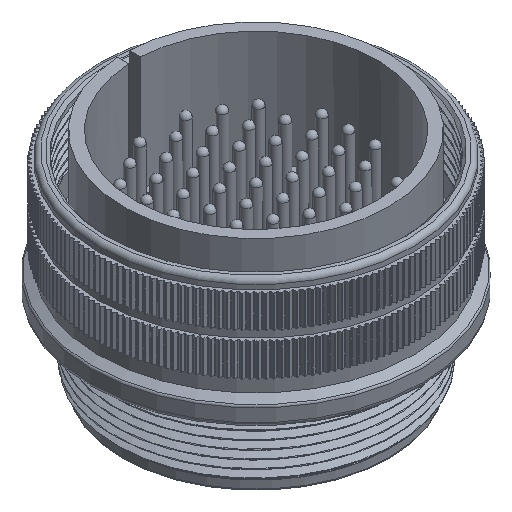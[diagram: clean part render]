
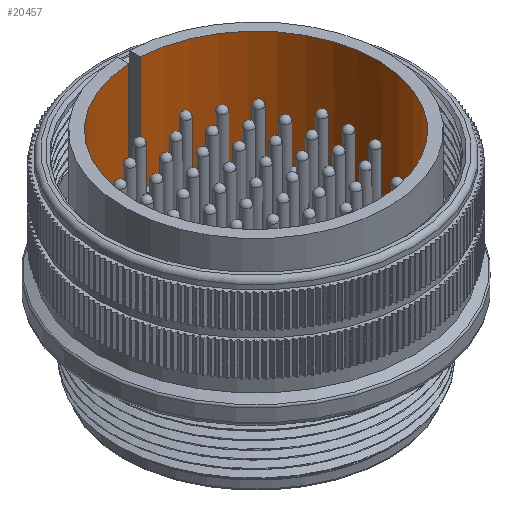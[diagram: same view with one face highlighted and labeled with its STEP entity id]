
A CAD part, isometric view. The second image highlights one B-rep face of the part: STEP entity #20457.
In plain terms, the highlighted cylindrical face has radius 20.575 mm (diameter 41.15 mm), a full revolution.
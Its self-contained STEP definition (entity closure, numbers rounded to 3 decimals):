
#3961 = CARTESIAN_POINT ( 'NONE',  ( -1., 20.551, -16.91 ) ) ;
#5373 = CARTESIAN_POINT ( 'NONE',  ( 0., 0., -19.42 ) ) ;
#6735 = VECTOR ( 'NONE', #120382, 1000. ) ;
#9427 = AXIS2_PLACEMENT_3D ( 'NONE', #58098, #75037, #10251 ) ;
#10251 = DIRECTION ( 'NONE',  ( 1., 0., 0. ) ) ;
#18541 = CYLINDRICAL_SURFACE ( 'NONE', #9427, 20.575 ) ;
#19699 = DIRECTION ( 'NONE',  ( 1., 0., 0. ) ) ;
#20457 = ADVANCED_FACE ( 'NONE', ( #55314, #160145 ), #18541, .F. ) ;
#29076 = CARTESIAN_POINT ( 'NONE',  ( -0.615, 20.566, -17.71 ) ) ;
#30859 = VERTEX_POINT ( 'NONE', #202734 ) ;
#31099 = CARTESIAN_POINT ( 'NONE',  ( -0.132, 20.575, -17.91 ) ) ;
#40411 = EDGE_CURVE ( 'NONE', #139598, #132895, #121008, .T. ) ;
#42102 = VERTEX_POINT ( 'NONE', #3961 ) ;
#45516 = EDGE_CURVE ( 'NONE', #132895, #42102, #183659, .T. ) ;
#48553 = DIRECTION ( 'NONE',  ( 0., 0., 1. ) ) ;
#54091 = CARTESIAN_POINT ( 'NONE',  ( 1., 20.551, 3.819 ) ) ;
#55314 = FACE_OUTER_BOUND ( 'NONE', #127701, .T. ) ;
#56282 = CARTESIAN_POINT ( 'NONE',  ( -1., 20.551, 3.819 ) ) ;
#57904 = CARTESIAN_POINT ( 'NONE',  ( 1., 20.551, -16.91 ) ) ;
#58098 = CARTESIAN_POINT ( 'NONE',  ( 0., 0., 3.819 ) ) ;
#59911 = CARTESIAN_POINT ( 'NONE',  ( 0.523, 20.569, -17.801 ) ) ;
#66974 = CARTESIAN_POINT ( 'NONE',  ( -1., 20.551, 0. ) ) ;
#67399 = CARTESIAN_POINT ( 'NONE',  ( 1., 20.551, 0. ) ) ;
#74842 = CARTESIAN_POINT ( 'NONE',  ( 0.264, 20.575, -17.91 ) ) ;
#75037 = DIRECTION ( 'NONE',  ( 0., 0., 1. ) ) ;
#77514 = CARTESIAN_POINT ( 'NONE',  ( 0.874, 20.557, -17.414 ) ) ;
#86609 = EDGE_CURVE ( 'NONE', #30859, #30859, #105163, .T. ) ;
#88522 = CARTESIAN_POINT ( 'NONE',  ( 1., 20.551, -17.042 ) ) ;
#92562 = CARTESIAN_POINT ( 'NONE',  ( -0.891, 20.557, -17.433 ) ) ;
#97574 = CARTESIAN_POINT ( 'NONE',  ( 0., 0., 0. ) ) ;
#105163 = CIRCLE ( 'NONE', #159713, 20.575 ) ;
#106173 = AXIS2_PLACEMENT_3D ( 'NONE', #97574, #48553, #19699 ) ;
#120382 = DIRECTION ( 'NONE',  ( 0., 0., 1. ) ) ;
#120577 = EDGE_CURVE ( 'NONE', #138184, #139598, #122052, .T. ) ;
#121008 = LINE ( 'NONE', #54091, #128321 ) ;
#122052 = CIRCLE ( 'NONE', #106173, 20.575 ) ;
#122741 = CARTESIAN_POINT ( 'NONE',  ( 0.974, 20.552, -17.172 ) ) ;
#123152 = ORIENTED_EDGE ( 'NONE', *, *, #86609, .F. ) ;
#127701 = EDGE_LOOP ( 'NONE', ( #164762, #168044, #191076, #177026 ) ) ;
#128321 = VECTOR ( 'NONE', #133271, 1000. ) ;
#129079 = DIRECTION ( 'NONE',  ( -1., 0., 0. ) ) ;
#130456 = DIRECTION ( 'NONE',  ( 0., 0., 1. ) ) ;
#132895 = VERTEX_POINT ( 'NONE', #175597 ) ;
#133271 = DIRECTION ( 'NONE',  ( 0., 0., -1. ) ) ;
#136324 = LINE ( 'NONE', #56282, #6735 ) ;
#138184 = VERTEX_POINT ( 'NONE', #66974 ) ;
#139598 = VERTEX_POINT ( 'NONE', #67399 ) ;
#143771 = EDGE_LOOP ( 'NONE', ( #123152 ) ) ;
#155479 = CARTESIAN_POINT ( 'NONE',  ( 0.8, 20.56, -17.525 ) ) ;
#159713 = AXIS2_PLACEMENT_3D ( 'NONE', #5373, #130456, #129079 ) ;
#160145 = FACE_OUTER_BOUND ( 'NONE', #143771, .T. ) ;
#164762 = ORIENTED_EDGE ( 'NONE', *, *, #120577, .T. ) ;
#167888 = EDGE_CURVE ( 'NONE', #42102, #138184, #136324, .T. ) ;
#168044 = ORIENTED_EDGE ( 'NONE', *, *, #40411, .T. ) ;
#169196 = CARTESIAN_POINT ( 'NONE',  ( -0.504, 20.569, -17.784 ) ) ;
#175597 = CARTESIAN_POINT ( 'NONE',  ( 1., 20.551, -16.91 ) ) ;
#177026 = ORIENTED_EDGE ( 'NONE', *, *, #167888, .T. ) ;
#183659 = B_SPLINE_CURVE_WITH_KNOTS ( 'NONE', 3,
 ( #57904, #88522, #122741, #77514, #155479, #59911, #74842, #31099, #184274, #169196, #29076, #92562, #202644, #201292 ),
 .UNSPECIFIED., .F., .F.,
 ( 4, 2, 2, 2, 2, 2, 4 ),
 ( 0., 0., 0.001, 0.002, 0.002, 0.002, 0.003 ),
 .UNSPECIFIED. ) ;
#184274 = CARTESIAN_POINT ( 'NONE',  ( -0.262, 20.574, -17.884 ) ) ;
#191076 = ORIENTED_EDGE ( 'NONE', *, *, #45516, .T. ) ;
#201292 = CARTESIAN_POINT ( 'NONE',  ( -1., 20.551, -16.91 ) ) ;
#202644 = CARTESIAN_POINT ( 'NONE',  ( -1., 20.551, -17.174 ) ) ;
#202734 = CARTESIAN_POINT ( 'NONE',  ( -20.575, 0., -19.42 ) ) ;
